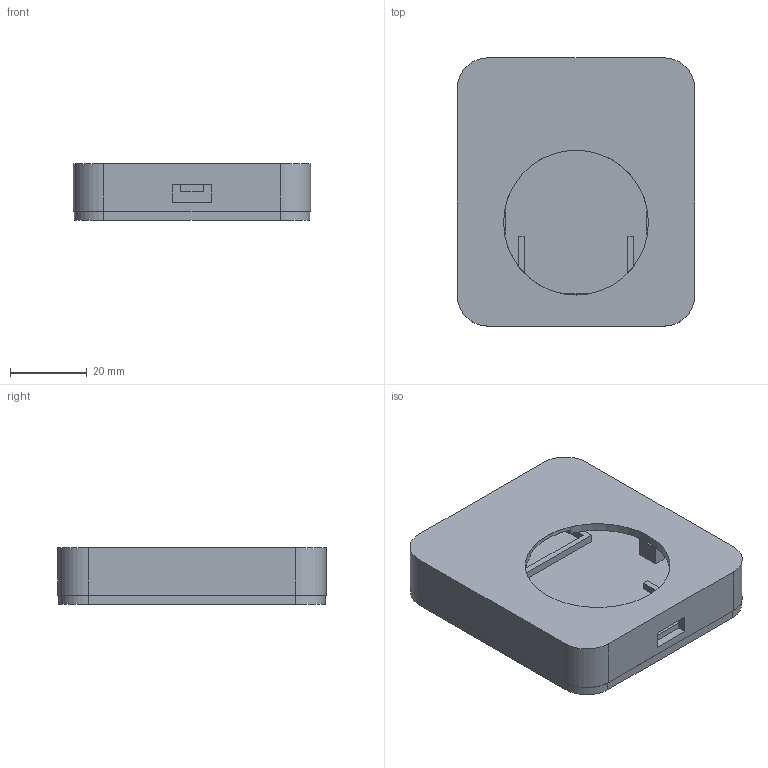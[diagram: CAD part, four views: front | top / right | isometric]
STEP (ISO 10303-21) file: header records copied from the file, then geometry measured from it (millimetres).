
FILE_DESCRIPTION(('Open CASCADE Model'),'2;1');
FILE_NAME('Open CASCADE Shape Model','2026-08-12T19:00:24',('Author'),( 'Open CASCADE'),'Open CASCADE STEP processor 7.9','Open CASCADE 7.9' ,'Unknown');
FILE_SCHEMA(('AUTOMOTIVE_DESIGN { 1 0 10303 214 1 1 1 1 }'));
Length unit declared in the file: millimetre
Products named in the file (3): Cirque_TM040040_enclosure; top_shell; bottom_plate
Assembly tree (2 placements, depth 2):
  Cirque_TM040040_enclosure
    top_shell
    bottom_plate
Bounding box: 62 x 70 x 14.8 mm (x, y, z)
Volume: 24149.7 mm3; surface area: 23238.5 mm2
Topology: 2 solids, 2 shells, 112 faces, 273 edges, 182 vertices
Faces by surface type: plane 78, cylinder 34
Full cylindrical faces by diameter (mm): 2.4 x4, 3.2 x4, 4.3 x4, 6.8 x4, 10.4 x2, 37.8 x1
Entity records: 6952 total; most frequent: CARTESIAN_POINT 1438, DIRECTION 997, LINE 565, VECTOR 565, ORIENTED_EDGE 546, PCURVE 546, DEFINITIONAL_REPRESENTATION 546, EDGE_CURVE 273
